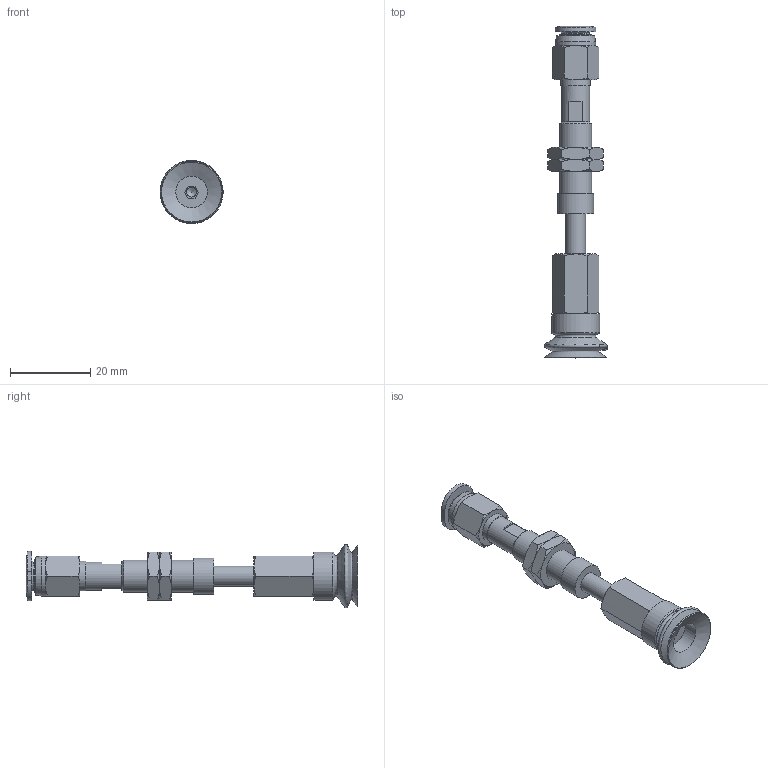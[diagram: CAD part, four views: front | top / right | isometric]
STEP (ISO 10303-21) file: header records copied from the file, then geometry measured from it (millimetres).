
FILE_DESCRIPTION(('STEP AP203'),'1');
FILE_NAME('-O.stp','2025-08-27T07:36:03',(' '),(' '),'Spatial InterOp 3D',' ',' ');
FILE_SCHEMA(('CONFIG_CONTROL_DESIGN'));
Length unit declared in the file: millimetre
Products named in the file (8): BNABPJTS-15-10-※-O; ADAPTER; NAPCTS-10-10-MBODY; Adapter-15-NAPJ; NUT-NAPJ-15-10-s; NAPJTS-15-10-FBODY; BPJG-15-※; PC-C_06-M5
Assembly tree (8 placements, depth 2):
  BNABPJTS-15-10-※-O
    ADAPTER
    NAPCTS-10-10-MBODY
    Adapter-15-NAPJ
    NUT-NAPJ-15-10-s  x2
    NAPJTS-15-10-FBODY
    BPJG-15-※
    PC-C_06-M5
Bounding box: 15.99 x 82.98 x 15.78 mm (x, y, z)
Volume: 4388.3 mm3; surface area: 5878.9 mm2
Topology: 7 solids, 10 shells, 188 faces, 392 edges, 233 vertices
Faces by surface type: cone 69, plane 67, cylinder 24, torus 11, bspline 10, sphere 4, revolution 3
Full cylindrical faces by diameter (mm): 2.5 x1, 4 x2, 4.134 x2, 4.6 x1, 5 x4, 7 x2, 7.188 x2, 7.4 x1, 7.9 x1, 8 x2, 8.2 x1, 9 x1, 10 x1, 12 x1
Entity records: 5118 total; most frequent: CARTESIAN_POINT 1607, DIRECTION 651, ORIENTED_EDGE 562, AXIS2_PLACEMENT_3D 291, EDGE_CURVE 283, EDGE_LOOP 235, VERTEX_POINT 195, FACE_OUTER_BOUND 135
